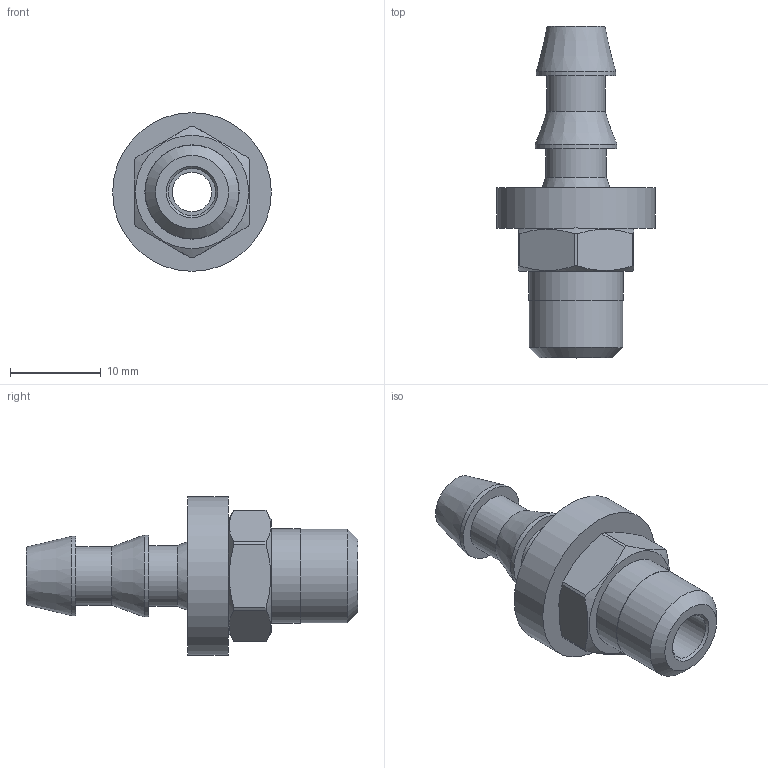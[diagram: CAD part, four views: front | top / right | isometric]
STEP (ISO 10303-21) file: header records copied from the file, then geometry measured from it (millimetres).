
FILE_DESCRIPTION(/* description */ (''),/* implementation_level */ '2;1');
FILE_NAME(/* name */ 'C:/Users/drich/Desktop/PLM-04-02 v1.step',/* time_stamp */ '2020-02-02T14:42:08-06:00',/* author */ (''),/* organization */ (''),/* preprocessor_version */ 'ST-DEVELOPER v18',/* originating_system */ 'Autodesk Translation Framework v8.12.0.6',/* authorisation */ '');
FILE_SCHEMA (('AUTOMOTIVE_DESIGN { 1 0 10303 214 3 1 1 }'));
Length unit declared in the file: inch
Products named in the file (3): PLM-04-02; -04 BARB ONLY; FW-6
Assembly tree (2 placements, depth 2):
  PLM-04-02
    -04 BARB ONLY
    FW-6
Bounding box: 17.45 x 36.5 x 17.45 mm (x, y, z)
Volume: 2198.3 mm3; surface area: 2688.3 mm2
Topology: 3 solids, 3 shells, 45 faces, 118 edges, 85 vertices
Faces by surface type: cylinder 19, plane 18, cone 8
Full cylindrical faces by diameter (mm): 4.369 x1, 5.156 x1, 6.391 x1, 6.696 x1, 7.214 x1, 8.331 x1, 8.712 x1, 9.017 x2, 10.312 x1, 10.363 x1, 14.91 x1, 17.45 x1
Entity records: 1559 total; most frequent: DIRECTION 279, CARTESIAN_POINT 277, ORIENTED_EDGE 236, AXIS2_PLACEMENT_3D 123, EDGE_CURVE 118, VERTEX_POINT 85, CIRCLE 73, EDGE_LOOP 57
